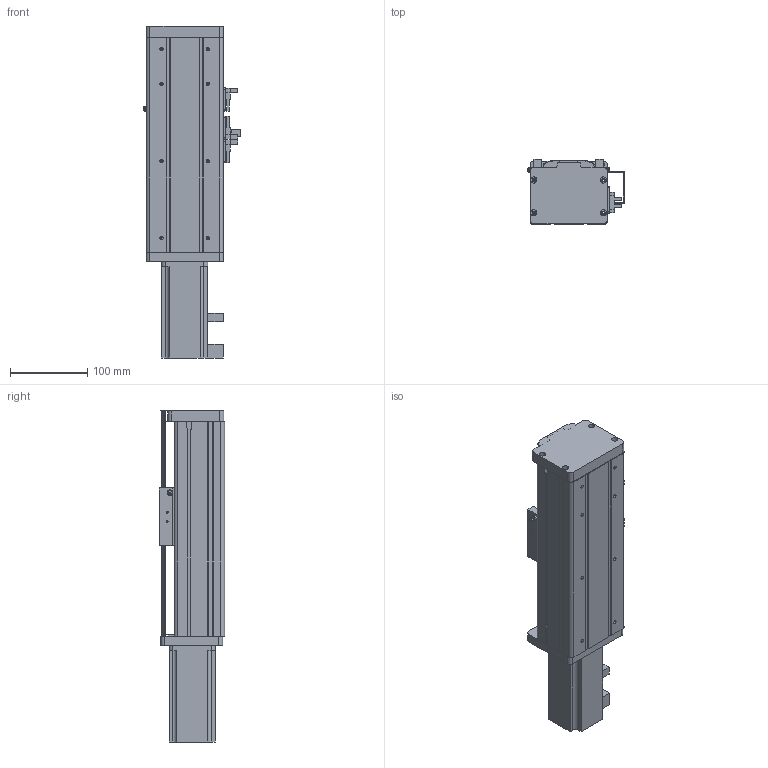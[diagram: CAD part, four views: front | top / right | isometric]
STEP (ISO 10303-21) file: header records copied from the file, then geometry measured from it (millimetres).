
FILE_DESCRIPTION (( 'STEP AP214' ), '1' );
FILE_NAME ('JDBN-100-P10-S50-1.STEP', '2012-06-13T00:51:18', ( 'TIGER-XP' ), ( '888TIGER' ), 'SwSTEP 2.0', 'SolidWorks 2007', '' );
FILE_SCHEMA (( 'AUTOMOTIVE_DESIGN' ));
Length unit declared in the file: millimetre
Products named in the file (1): JDBN-100-P10-S50-1
Bounding box: 125.95 x 84.5 x 430 mm (x, y, z)
Surface area: 244888 mm2 (no closed solid volume)
Topology: 0 solids, 29 shells, 484 faces, 1760 edges, 1285 vertices
Faces by surface type: plane 258, cylinder 196, torus 14, cone 12, sphere 4
Entity records: 24704 total; most frequent: CARTESIAN_POINT 3852, DIRECTION 3406, ORIENTED_EDGE 2794, EDGE_CURVE 1760, VERTEX_POINT 1285, AXIS2_PLACEMENT_3D 1193, LINE 1020, VECTOR 1020
